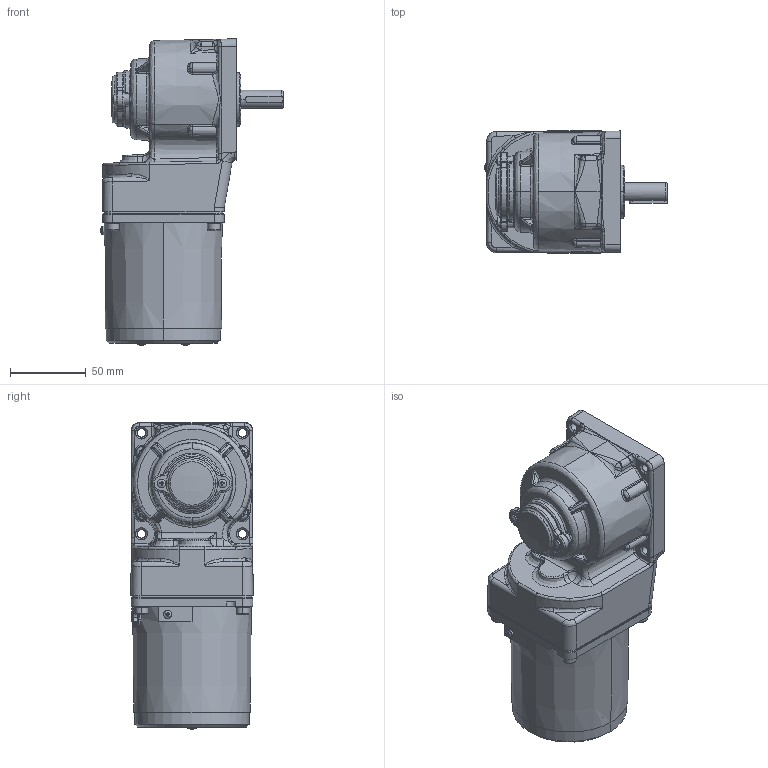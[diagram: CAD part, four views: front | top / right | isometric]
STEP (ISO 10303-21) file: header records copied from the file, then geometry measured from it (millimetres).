
FILE_DESCRIPTION (( 'STEP AP203' ), '1' );
FILE_NAME ('4RK25GN-C(4GN3RT-180RT)ÐÂ.STEP', '2022-02-21T09:47:20', ( 'PC' ), ( 'Microsoft' ), 'SwSTEP 2.0', 'SolidWorks 2014', '' );
FILE_SCHEMA (( 'CONFIG_CONTROL_DESIGN' ));
Length unit declared in the file: millimetre
Products named in the file (14): 80ZNGB; 4IK25GN-C_5.stp; PRT0006.stp; 80妗陑怀堤粣; 80壔裔; PRT0035^ASM0002_ASM_ASM_ASM0001_ASM_ASM_4IK25GN-CT-4GN3-180RC_ASM_ASM_4ik25gn-ct-4gn3-180rt_asm(2)_8; 4RK25GN-C(4GN3RT-180RT)陔; hexagon socket head cap screws gb_GB_FASTENER_SCREWS_HSHCS M4X12-N; 80眻褒眊裔; 80綴傷裔; 90HXQ.stp; zd-4gn1000rc-504-001-20211209（PROE导出的版本）; cross recessed pan head screws gb_GB_CROSS_SCREWS_TYPE1 M3X6-6  H type-N; M3
Assembly tree (21 placements, depth 2):
  4RK25GN-C(4GN3RT-180RT)陔
    80眻褒眊裔
    zd-4gn1000rc-504-001-20211209（PROE导出的版本）
    80妗陑怀堤粣
    80壔裔
    80綴傷裔
    hexagon socket head cap screws gb_GB_FASTENER_SCREWS_HSHCS M4X12-N  x4
    cross recessed pan head screws gb_GB_CROSS_SCREWS_TYPE1 M3X6-6  H type-N  x2
    PRT0035^ASM0002_ASM_ASM_ASM0001_ASM_ASM_4IK25GN-CT-4GN3-180RC_ASM_ASM_4ik25gn-ct-4gn3-180rt_asm(2)_8  x4
    80ZNGB
    90HXQ.stp
    M3
    4IK25GN-C_5.stp
    PRT0006.stp  x2
Bounding box: 120.31 x 80.6 x 201.82 mm (x, y, z)
Volume: 705323.3 mm3; surface area: 152444 mm2
Topology: 21 solids, 21 shells, 2660 faces, 6048 edges, 3394 vertices
Faces by surface type: cone 1041, cylinder 729, bspline 472, plane 408, torus 8, sphere 2
Entity records: 79489 total; most frequent: CARTESIAN_POINT 43818, ORIENTED_EDGE 7696, DIRECTION 6238, EDGE_CURVE 3848, AXIS2_PLACEMENT_3D 2459, VERTEX_POINT 2256, EDGE_LOOP 1780, ADVANCED_FACE 1680
